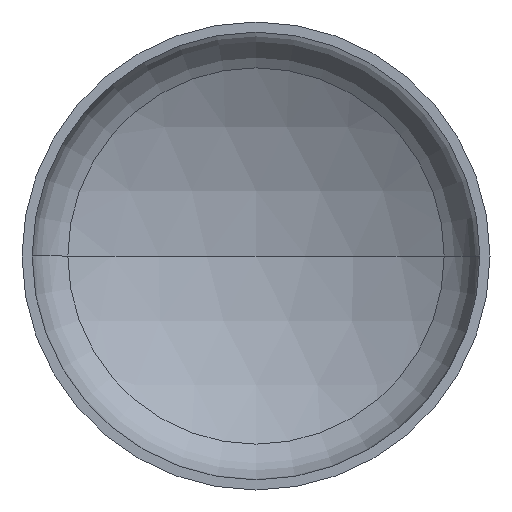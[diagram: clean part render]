
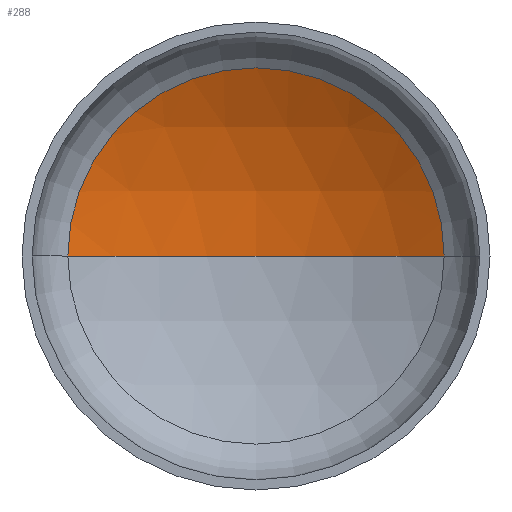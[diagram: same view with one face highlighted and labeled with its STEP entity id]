
A CAD part, front view. The second image highlights one B-rep face of the part: STEP entity #288.
In plain terms, the highlighted spherical face has radius 480 mm.
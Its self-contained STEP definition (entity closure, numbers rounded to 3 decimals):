
#3 = VERTEX_POINT ( 'NONE', #264 ) ;
#12 = AXIS2_PLACEMENT_3D ( 'NONE', #159, #274, #188 ) ;
#13 = DIRECTION ( 'NONE',  ( -1., 0., 0. ) ) ;
#14 = AXIS2_PLACEMENT_3D ( 'NONE', #232, #141, #158 ) ;
#20 = ORIENTED_EDGE ( 'NONE', *, *, #360, .T. ) ;
#24 = EDGE_LOOP ( 'NONE', ( #29, #20, #131 ) ) ;
#29 = ORIENTED_EDGE ( 'NONE', *, *, #388, .F. ) ;
#53 = AXIS2_PLACEMENT_3D ( 'NONE', #204, #203, #13 ) ;
#64 = CIRCLE ( 'NONE', #198, 480. ) ;
#68 = VERTEX_POINT ( 'NONE', #294 ) ;
#120 = VERTEX_POINT ( 'NONE', #319 ) ;
#131 = ORIENTED_EDGE ( 'NONE', *, *, #357, .T. ) ;
#141 = DIRECTION ( 'NONE',  ( 0., 0., -1. ) ) ;
#156 = FACE_OUTER_BOUND ( 'NONE', #24, .T. ) ;
#158 = DIRECTION ( 'NONE',  ( -1., 0., 0. ) ) ;
#159 = CARTESIAN_POINT ( 'NONE',  ( 0., 119.537, 0. ) ) ;
#186 = CARTESIAN_POINT ( 'NONE',  ( 0., -295.439, 0. ) ) ;
#188 = DIRECTION ( 'NONE',  ( 1., 0., 0. ) ) ;
#198 = AXIS2_PLACEMENT_3D ( 'NONE', #186, #365, #216 ) ;
#203 = DIRECTION ( 'NONE',  ( 0., 0., -1. ) ) ;
#204 = CARTESIAN_POINT ( 'NONE',  ( 0., -295.439, 0. ) ) ;
#216 = DIRECTION ( 'NONE',  ( 1., 0., 0. ) ) ;
#232 = CARTESIAN_POINT ( 'NONE',  ( 0., -295.439, 0. ) ) ;
#258 = CIRCLE ( 'NONE', #12, 241.237 ) ;
#264 = CARTESIAN_POINT ( 'NONE',  ( 0., 184.561, 0. ) ) ;
#274 = DIRECTION ( 'NONE',  ( 0., -1., 0. ) ) ;
#288 = ADVANCED_FACE ( 'NONE', ( #156 ), #369, .F. ) ;
#294 = CARTESIAN_POINT ( 'NONE',  ( 241.237, 119.537, 0. ) ) ;
#319 = CARTESIAN_POINT ( 'NONE',  ( -241.237, 119.537, 0. ) ) ;
#357 = EDGE_CURVE ( 'NONE', #68, #120, #258, .T. ) ;
#360 = EDGE_CURVE ( 'NONE', #3, #68, #389, .T. ) ;
#365 = DIRECTION ( 'NONE',  ( 0., 0., 1. ) ) ;
#369 = SPHERICAL_SURFACE ( 'NONE', #53, 480. ) ;
#388 = EDGE_CURVE ( 'NONE', #3, #120, #64, .T. ) ;
#389 = CIRCLE ( 'NONE', #14, 480. ) ;
